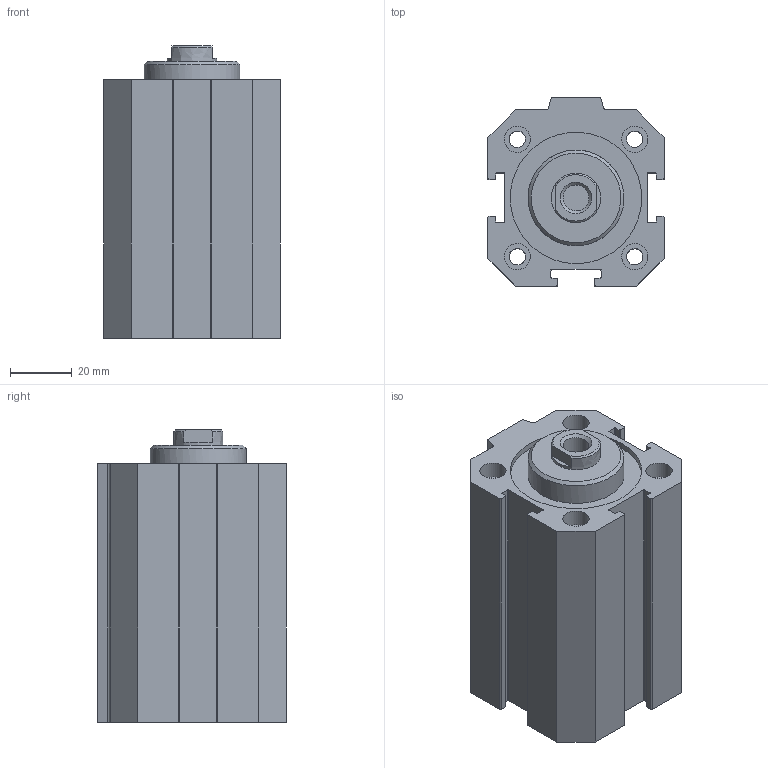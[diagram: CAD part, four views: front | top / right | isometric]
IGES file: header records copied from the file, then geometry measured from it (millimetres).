
Global section: file name: 1511_40_0045; native system: Autodesk Inventor 2014; preprocessor: unknown; author: A. Manieri; date: 20160824.120113; units: millimetre
Bounding box: 57 x 61 x 94.5 mm (x, y, z)
Volume: 188491.3 mm3; surface area: 54461.6 mm2
Topology: 2 solids, 2 shells, 117 faces, 300 edges, 205 vertices
Faces by surface type: bspline 117
